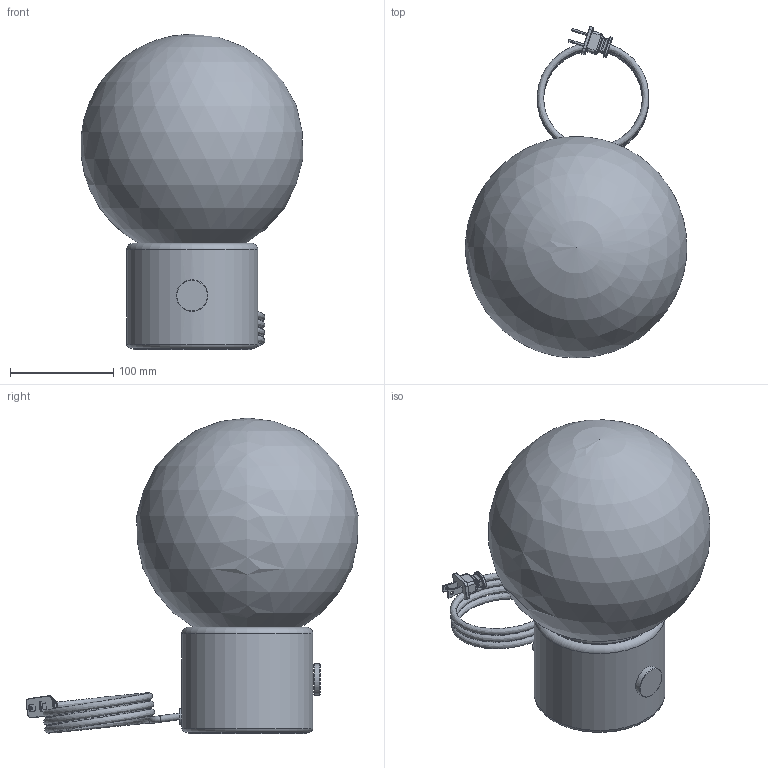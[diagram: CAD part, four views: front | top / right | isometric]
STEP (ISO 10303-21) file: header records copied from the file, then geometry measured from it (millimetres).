
FILE_DESCRIPTION(/* description */ ('','CAx-IF Rec.Pracs.---Representation and Presentation of Product Manufacturing Information (PMI)---4.0---2014-10-13'),/* implementation_level */ '2;1');
FILE_NAME(/* name */ 'Niche - Solitaire Petite - Ionic Table Lamp.step',/* time_stamp */ '2025-02-10T08:53:15-05:00',/* author */ (''),/* organization */ (''),/* preprocessor_version */ 'ST-DEVELOPER v20',/* originating_system */ 'Autodesk Translation Framework v13.20.0.188',/* authorisation */ '');
FILE_SCHEMA (('AP242_MANAGED_MODEL_BASED_3D_ENGINEERING_MIM_LF { 1 0 10303 442 1 1 4 }'));
Length unit declared in the file: inch
Products named in the file (21): Marble Base - Ionic Table Lamp - 120V; Coiled - SVT (Blk Fabric); Brass Dial - Dimmer Knob; µ÷¹âÆ÷; 90701000093 ¹â°åE27µÆ×ù_¦Õ375
9mm_ºÚÉ«_CEÈÏÖ¤; 90701000096 M10ÑÀ¹Ü_M10L25mmÄÚ¿×¦
Õ7_²ÄÖÊ£ºÌú_¶Æ°×Ð
¿_RoHS; 90701000098 Ñ¹Ïß°å_PP_314612_º
ÚÉ«; 90701000097 M10Áù½Ç±¡ÂÝÄ¸_M10
_²ÄÖÊ£ºÌú_¶Æ°×Ð¿
_RoHS; M10ÄÚ¾â³ÝËø½ôµæÈ¦
_²ÄÖÊ£ºÌú_¶Æ°×Ð¿
_RoHS; Marble Base; Plastic Insert; Silicone Gasket; T9 - Bulb; T9 - LED Bulb; T9; E26 Base; Neoprene Pad; 2-Pole Plug End; Rubber Grommet; Orb 8.5In - Solitaire Petite; Solitaire Petite (Orb-8.5)
Assembly tree (20 placements, depth 4):
  Marble Base - Ionic Table Lamp - 120V
    Coiled - SVT (Blk Fabric)
    Brass Dial - Dimmer Knob
    µ÷¹âÆ÷
    90701000093 ¹â°åE27µÆ×ù_¦Õ375
9mm_ºÚÉ«_CEÈÏÖ¤
    90701000096 M10ÑÀ¹Ü_M10L25mmÄÚ¿×¦
Õ7_²ÄÖÊ£ºÌú_¶Æ°×Ð
¿_RoHS
    90701000098 Ñ¹Ïß°å_PP_314612_º
ÚÉ«
    90701000097 M10Áù½Ç±¡ÂÝÄ¸_M10
_²ÄÖÊ£ºÌú_¶Æ°×Ð¿
_RoHS
    M10ÄÚ¾â³ÝËø½ôµæÈ¦
_²ÄÖÊ£ºÌú_¶Æ°×Ð¿
_RoHS
    Marble Base
    Plastic Insert
    Silicone Gasket
    T9 - Bulb
      T9 - LED Bulb
        T9
        E26 Base
    Neoprene Pad
    2-Pole Plug End
    Rubber Grommet
    Orb 8.5In - Solitaire Petite
      Solitaire Petite (Orb-8.5)
Bounding box: 214.83 x 321.46 x 305.75 mm (x, y, z)
Volume: 1252204.8 mm3; surface area: 585761.1 mm2
Topology: 17 solids, 18 shells, 2019 faces, 5355 edges, 3517 vertices
Faces by surface type: plane 998, bspline 814, cylinder 131, cone 36, torus 34, sphere 6
Full cylindrical faces by diameter (mm): 3.175 x2, 4.092 x1, 5.08 x1, 6.35 x2, 6.7 x1, 7 x1, 7.62 x2, 8.128 x1, 8.3 x1, 8.376 x14, 10 x16, 10.16 x1, 10.5 x1, 10.922 x1, 11 x1, 11.684 x1, 14 x1, 15.24 x2, 16 x1, 16.8 x1, 21 x1, 25.94 x1, 27 x1, 27.94 x1, 30.48 x1, 35.5 x1, 37.5 x1, 39.37 x1, 41.402 x1, 80.518 x1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
Entity records: 78398 total; most frequent: CARTESIAN_POINT 32981, ORIENTED_EDGE 10696, DIRECTION 6528, EDGE_CURVE 5349, VERTEX_POINT 3517, LINE 3294, VECTOR 3294, EDGE_LOOP 2200
